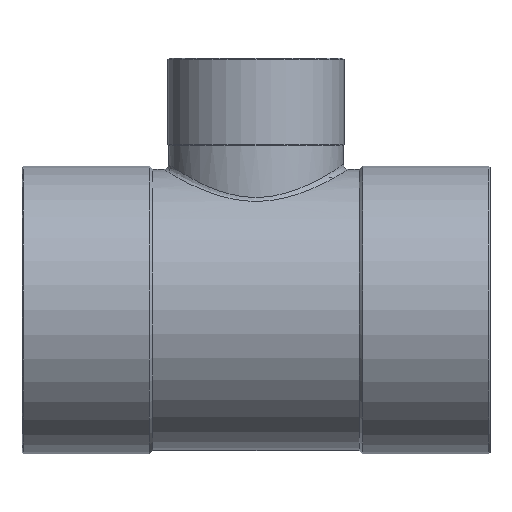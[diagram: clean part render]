
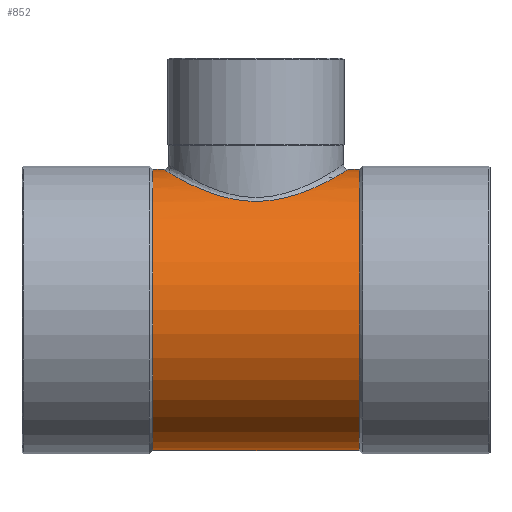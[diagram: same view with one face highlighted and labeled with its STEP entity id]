
A CAD part, top view. The second image highlights one B-rep face of the part: STEP entity #852.
In plain terms, the highlighted cylindrical face has radius 55.25 mm (diameter 110.5 mm), a partial arc.
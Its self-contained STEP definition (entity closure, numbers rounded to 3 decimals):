
#133=CARTESIAN_POINT('',(40.614,55.25,0.0));
#134=VERTEX_POINT('',#133);
#143=CARTESIAN_POINT('',(40.614,-55.25,0.));
#144=VERTEX_POINT('',#143);
#145=CARTESIAN_POINT('',(40.614,0.0,0.0));
#146=DIRECTION('',(1.0,0.0,0.0));
#147=DIRECTION('',(0.0,1.0,0.0));
#148=AXIS2_PLACEMENT_3D('',#145,#146,#147);
#149=CIRCLE('',#148,55.25);
#150=EDGE_CURVE('',#134,#144,#149,.T.);
#177=CARTESIAN_POINT('',(-40.614,55.25,0.0));
#178=VERTEX_POINT('',#177);
#194=CARTESIAN_POINT('',(-40.614,-55.25,0.));
#195=VERTEX_POINT('',#194);
#202=CARTESIAN_POINT('',(-40.614,0.0,0.0));
#203=DIRECTION('',(1.0,0.0,0.0));
#204=DIRECTION('',(0.0,1.0,0.0));
#205=AXIS2_PLACEMENT_3D('',#202,#203,#204);
#206=CIRCLE('',#205,55.25);
#207=EDGE_CURVE('',#178,#195,#206,.T.);
#804=CARTESIAN_POINT('',(20.307,0.0,0.0));
#805=DIRECTION('',(1.0,0.0,0.0));
#806=DIRECTION('',(0.0,1.0,0.0));
#807=AXIS2_PLACEMENT_3D('',#804,#805,#806);
#808=CYLINDRICAL_SURFACE('',#807,55.25);
#809=CARTESIAN_POINT('',(-36.4,55.25,0.));
#810=VERTEX_POINT('',#809);
#811=CARTESIAN_POINT('',(-40.614,55.25,0.0));
#812=DIRECTION('',(1.0,0.0,0.0));
#813=VECTOR('',#812,4.214);
#814=LINE('',#811,#813);
#815=EDGE_CURVE('',#178,#810,#814,.T.);
#816=ORIENTED_EDGE('',*,*,#815,.F.);
#817=ORIENTED_EDGE('',*,*,#207,.T.);
#818=CARTESIAN_POINT('',(40.614,-55.25,0.));
#819=DIRECTION('',(-1.0,0.0,0.0));
#820=VECTOR('',#819,81.229);
#821=LINE('',#818,#820);
#822=EDGE_CURVE('',#144,#195,#821,.T.);
#823=ORIENTED_EDGE('',*,*,#822,.F.);
#824=ORIENTED_EDGE('',*,*,#150,.F.);
#825=CARTESIAN_POINT('',(36.4,55.25,0.));
#826=VERTEX_POINT('',#825);
#827=CARTESIAN_POINT('',(36.4,55.25,0.));
#828=DIRECTION('',(1.0,0.0,0.0));
#829=VECTOR('',#828,4.214);
#830=LINE('',#827,#829);
#831=EDGE_CURVE('',#826,#134,#830,.T.);
#832=ORIENTED_EDGE('',*,*,#831,.F.);
#833=CARTESIAN_POINT('',(-36.4,55.25,0.));
#834=CARTESIAN_POINT('',(-36.4,55.25,8.734));
#835=CARTESIAN_POINT('',(-32.833,52.912,17.322));
#836=CARTESIAN_POINT('',(-22.929,47.925,27.913));
#837=CARTESIAN_POINT('',(-17.781,45.638,31.237));
#838=CARTESIAN_POINT('',(-6.822,42.891,34.892));
#839=CARTESIAN_POINT('',(-1.159,42.336,35.509));
#840=CARTESIAN_POINT('',(9.751,43.355,34.257));
#841=CARTESIAN_POINT('',(14.907,44.833,32.448));
#842=CARTESIAN_POINT('',(26.541,49.339,25.394));
#843=CARTESIAN_POINT('',(32.026,52.628,18.707));
#844=CARTESIAN_POINT('',(35.806,54.881,7.262));
#845=CARTESIAN_POINT('',(36.4,55.25,3.627));
#846=CARTESIAN_POINT('',(36.4,55.25,0.));
#847=B_SPLINE_CURVE_WITH_KNOTS('',3,(#833,#834,#835,#836,#837,#838,#839,#840,#841,#842,#843,#844,#845,#846),.UNSPECIFIED.,.F.,.U.,(4,2,2,2,2,2,4),(5.361,7.853,9.608,11.118,12.628,15.058,16.089),.UNSPECIFIED.);
#848=EDGE_CURVE('',#810,#826,#847,.T.);
#849=ORIENTED_EDGE('',*,*,#848,.F.);
#850=EDGE_LOOP('',(#816,#817,#823,#824,#832,#849));
#851=FACE_OUTER_BOUND('',#850,.T.);
#852=ADVANCED_FACE('',(#851),#808,.T.);
